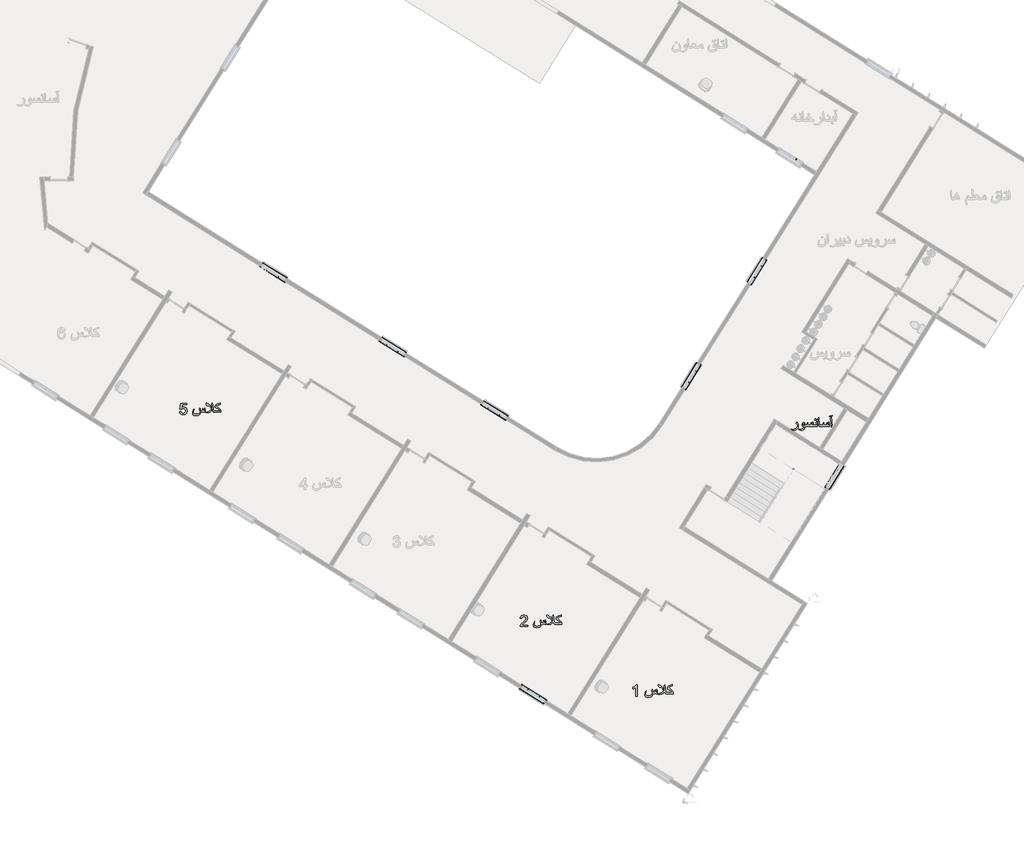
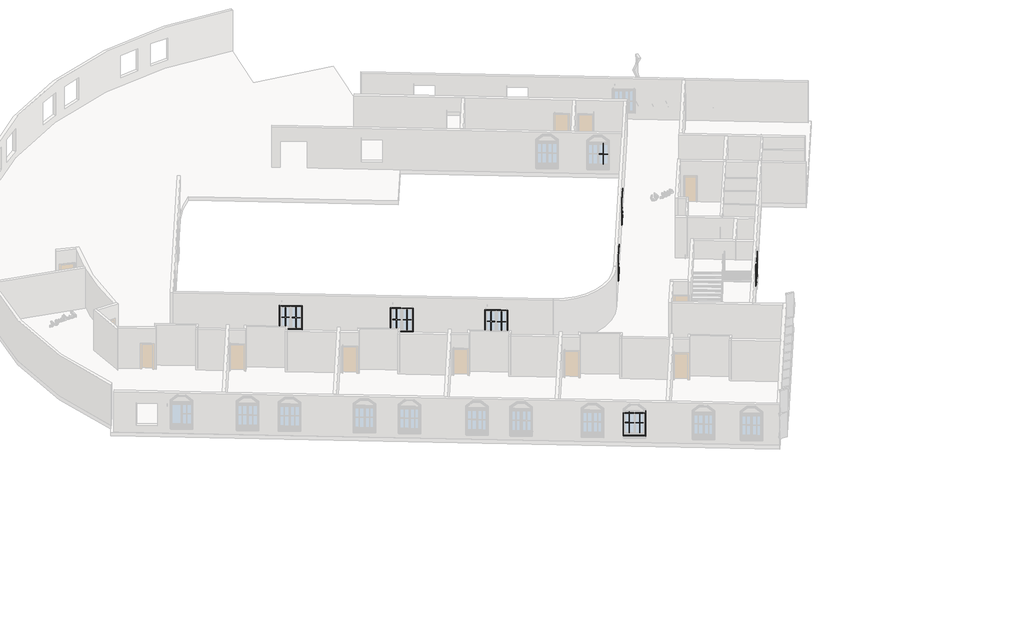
# One storey, part 8 of 12: 33 proxies, 1 member.
"""IFC4 building model written with IfcOpenShell, lengths in millimetres."""

from ifc_helpers import new_model, si_unit, frame, origin, origin_with_axes, place, context, project, spatial, polyline, outline, extrude, transform, mapped, element, save
from components import m_muntin_pattern_2x2_m_muntin_pattern_2x2_d2d4b859, m_muntin_pattern_2x2_m_muntin_pattern_2x2_f3921bb5, m_trim_window_exterior_flat_with_sill_136e302d, m_trim_window_exterior_flat_with_sill_88aaac3a, m_trim_window_interior_flat_picture_frame_c6c50358, m_trim_window_interior_flat_picture_frame_896fcfd1

model = new_model("IFC4")

# Units and contexts
model_context = context("Model", 3, world=origin())
ifc_project = project(units=[si_unit("LENGTHUNIT", "METRE", prefix="MILLI")], contexts=[model_context])

# Site, building, storey
site = spatial("IfcSite", under=ifc_project)
building = spatial("IfcBuilding", under=site)
storey = spatial("IfcBuildingStorey", under=building, Name="\u200fهمکف", Elevation=0.0)

# Proxies
placement = place(None, origin())
element("IfcBuildingElementProxy", 1, Name="600mm Arial", ObjectType="600mm Arial", at=placement, inside=storey, context=model_context, shape_type="SweptSolid", body=[
    extrude(outline(polyline([(47909.0542313, -48294.1945973), (47906.6078161, -48316.7641577), (47899.2685703, -48339.7383883), (47887.0364939, -48363.1172891), (47869.9115871, -48386.9008601), (47831.5782832, -48426.1906572), (47784.8572698, -48459.5943424), (47740.8585832, -48481.5568975), (47705.3947588, -48488.8777492), (47675.5227408, -48486.7440336), (47643.296278, -48480.3428869), (47582.5221724, -48460.1829536), (47522.9252892, -48437.0799643), (47529.8414707, -48421.4817677), (47587.4517912, -48434.9462487), (47641.6775973, -48441.7888538), (47668.7537121, -48439.7655028), (47696.4184381, -48433.6954499), (47724.6717754, -48423.578695), (47753.5137238, -48409.4152382), (47802.3500586, -48375.9379767), (47843.4976598, -48334.6616168), (47859.8178248, -48312.6346823), (47871.4750855, -48291.729788), (47878.469442, -48271.9469337), (47880.8008941, -48253.2861195), (47875.7609108, -48221.3171741), (47860.6409608, -48187.8031243), (47841.0328504, -48159.7705163), (47814.8764406, -48131.0021443), (47838.4208883, -48055.6599117), (47868.9550939, -48086.5619993), (47890.2186732, -48117.4640869), (47904.3453418, -48154.3994392), (47909.0542313, -48195.4550698), (47909.0542313, -48294.1945973)])), origin_with_axes(), (0.0, 0.0, 1.0), 150.0),
    extrude(outline(polyline([(48916.7565925, -48291.1043886), (48709.5654529, -48291.1043886), (48681.3121156, -48291.1043886), (48678.5162125, -48291.1043886), (48654.5854887, -48289.2097963), (48634.2967966, -48283.5260195), (48616.6200668, -48274.3841519), (48600.5252295, -48262.1152874), (48582.9036819, -48275.4326156), (48567.7101555, -48283.3052903), (48543.466732, -48289.154614), (48511.6449394, -48291.1043886), (48485.5988942, -48291.1043886), (48464.8135615, -48288.9338848), (48443.9546523, -48282.4223735), (48410.4038144, -48263.8811209), (48391.2187683, -48277.0329023), (48373.6891913, -48285.2918531), (48351.7450302, -48289.6512547), (48319.3162324, -48291.1043886), (48264.7089898, -48291.1043886), (48263.8304304, -48301.3499021), (48254.532213, -48337.3839436), (48239.035184, -48373.3076204), (48217.3393433, -48409.1209326), (48188.6813359, -48444.0145399), (48157.8896129, -48468.938545), (48124.9641743, -48483.8929481), (48089.9050202, -48488.8777492), (48062.7185407, -48486.8911864), (48034.7227209, -48480.9314981), (47980.717644, -48460.9187175), (47927.8897895, -48437.0799643), (47934.805971, -48422.5118373), (47982.3363248, -48435.1669779), (48027.0707754, -48441.7888538), (48051.3969723, -48440.1517789), (48075.0793758, -48435.2405543), (48098.1179857, -48427.0551799), (48120.5128022, -48415.5956557), (48154.9465569, -48390.3221627), (48189.3803117, -48355.7044669), (48238.676499, -48291.1043886), (48190.7046869, -48286.4322872), (48171.9059169, -48280.5921606), (48156.5652377, -48272.4159832), (48143.0455744, -48260.027557), (48133.388672, -48244.1994342), (48127.5945306, -48224.9316147), (48125.6631501, -48202.2240985), (48130.5927688, -48158.9611759), (48145.3816251, -48118.9356148), (48157.5677161, -48099.4930514), (48171.3173057, -48085.6055061), (48186.6303938, -48077.2729789), (48203.5069803, -48074.4954698), (48220.0616701, -48077.2637818), (48234.1147623, -48085.5687179), (48245.6662569, -48099.4102779), (48254.716154, -48118.788462), (48263.8764157, -48160.2119747), (48266.9298363, -48215.762156), (48320.4934548, -48215.762156), (48349.9240144, -48214.1802634), (48369.6424893, -48209.4345856), (48380.3938406, -48202.8311038), (48388.0733773, -48193.6156599), (48392.6810993, -48181.7882537), (48394.2170066, -48167.3488854), (48393.186937, -48140.9349581), (48389.3609643, -48111.2836693), (48403.4876329, -48083.9132489), (48422.0288854, -48144.9816601), (48435.5669428, -48174.2282787), (48450.2822227, -48195.1607642), (48470.6628852, -48210.611808), (48494.7223677, -48215.762156), (48521.7984825, -48215.762156), (48548.1388334, -48213.1501938), (48566.5329331, -48205.3143073), (48578.673039, -48189.8632635), (48582.7197409, -48167.3488854), (48581.3953657, -48139.978465), (48577.7165458, -48111.2836693), (48591.8432144, -48083.9132489), (48600.5252295, -48127.1761715), (48612.9596409, -48170.5494588), (48627.8956499, -48198.250973), (48644.3767633, -48211.3843602), (48665.8610718, -48215.762156), (48675.9594326, -48213.8307755), (48683.8872896, -48208.0366341), (48689.0192434, -48199.2258603), (48690.7298947, -48188.2445827), (48686.4256754, -48161.3524089), (48673.5130173, -48133.0622834), (48653.0587784, -48102.748807), (48676.6032261, -48055.6599117), (48691.2081413, -48081.4116513), (48700.2948266, -48103.3374182), (48707.2477963, -48138.690878), (48709.5654529, -48184.1243044), (48709.5654529, -48215.762156), (48888.5032553, -48215.762156), (48885.8177167, -48173.8603967), (48877.761101, -48143.2158265), (48864.9955958, -48122.1361882), (48841.4143599, -48093.331028), (48874.3765867, -48017.9887954), (48895.5665896, -48052.4593383), (48907.0445079, -48078.4685954), (48914.3285714, -48122.0626118), (48916.7565925, -48187.2145131), (48916.7565925, -48291.1043886)]), holes=[polyline([(48238.676499, -48215.762156), (48228.9644144, -48183.2781758), (48217.4864961, -48162.6399959), (48205.4199667, -48153.0382758), (48190.9989925, -48149.8377024), (48180.5511438, -48151.6771124), (48171.5748231, -48157.1953423), (48165.3944056, -48165.5094754), (48163.3342664, -48175.7365949), (48167.7488504, -48193.0638369), (48180.9926022, -48205.6086129), (48204.2427443, -48213.2237702), (48238.676499, -48215.762156)])]), origin_with_axes(), (0.0, 0.0, 1.0), 150.0),
    extrude(outline(polyline([(48879.0854762, -47911.5973223), (48848.4776942, -47970.8999), (48784.9076855, -47936.4661452), (48813.8967867, -47876.7221092), (48879.0854762, -47911.5973223)])), origin_with_axes(), (0.0, 0.0, 1.0), 150.0),
    extrude(outline(polyline([(49689.0144768, -48187.9502771), (49685.7403271, -48219.3673995), (49675.9178778, -48249.7544523), (49646.634471, -48300.5221677), (49639.2768311, -48296.5490421), (49641.116241, -48269.6936565), (49641.9255814, -48249.3129939), (49633.9057539, -48133.0622834), (49614.7023138, -47977.2274703), (49599.5455756, -47876.7221092), (49622.3542593, -47839.2717221), (49646.634471, -47801.3798766), (49664.3663831, -47925.9447202), (49681.2153785, -48068.4622051), (49689.0144768, -48187.9502771)])), origin_with_axes(), (0.0, 0.0, 1.0), 150.0),
    extrude(outline(polyline([(49707.850035, -47721.9173656), (49693.4106667, -47740.6609533), (49676.874371, -47753.6287936), (49657.0271373, -47761.1887686), (49632.6549552, -47763.7087603), (49619.7055089, -47762.6051143), (49606.4617571, -47759.8827875), (49578.0612671, -47754.2909812), (49563.9345985, -47757.4547664), (49553.0452914, -47763.7087603), (49547.7477907, -47759.1470235), (49564.3760568, -47735.3818467), (49574.1617179, -47728.3736947), (49584.0945318, -47726.037644), (49594.836686, -47727.4355956), (49616.4681474, -47731.6294503), (49632.6549552, -47734.3517771), (49647.2230822, -47735.4554231), (49676.6536418, -47729.8636167), (49702.5525342, -47716.6198649), (49707.850035, -47721.9173656)])), origin_with_axes(), (0.0, 0.0, 1.0), 150.0),
    extrude(outline(polyline([(49547.7477907, -48291.1043886), (49516.6985503, -48291.1043886), (49492.7678265, -48289.2097963), (49472.4791345, -48283.5260195), (49454.8024046, -48274.3841519), (49438.7075673, -48262.1152874), (49421.0860197, -48275.4326156), (49405.8924933, -48283.3052903), (49381.6490698, -48289.154614), (49349.8272773, -48291.1043886), (49323.781232, -48291.1043886), (49302.9958993, -48288.9338848), (49282.1369901, -48282.4223735), (49248.5861522, -48263.8811209), (49229.4011061, -48277.0329023), (49211.8715291, -48285.2918531), (49189.9273681, -48289.6512547), (49157.4985702, -48291.1043886), (49105.1121741, -48291.1043886), (49076.8588368, -48291.1043886), (49049.4884164, -48291.1043886), (49025.2082047, -48285.5493704), (49006.2254938, -48268.8843161), (48993.6807177, -48244.8616218), (48984.5940324, -48211.347572), (48973.263267, -48117.1697813), (48968.3336483, -48023.7277545), (48961.5646196, -47951.0342722), (48950.3074305, -47910.5672528), (48939.9331582, -47892.4674586), (48926.1743716, -47876.7221092), (48977.9721565, -47801.3798766), (48988.383217, -47853.3983907), (48995.1890339, -47914.6875311), (49001.5166042, -48109.0763774), (49010.5297131, -48166.7602742), (49022.8537599, -48199.1338898), (49034.8099248, -48211.6050894), (49047.7225828, -48215.762156), (49076.8588368, -48215.762156), (49105.1121741, -48215.762156), (49158.6757926, -48215.762156), (49188.1063522, -48214.1802634), (49207.8248271, -48209.4345856), (49218.5761784, -48202.8311038), (49226.2557151, -48193.6156599), (49230.8634371, -48181.7882537), (49232.3993444, -48167.3488854), (49231.3692748, -48140.9349581), (49227.5433021, -48111.2836693), (49241.6699707, -48083.9132489), (49260.2112232, -48144.9816601), (49273.7492807, -48174.2282787), (49288.4645605, -48195.1607642), (49308.845223, -48210.611808), (49332.9047055, -48215.762156), (49359.9808203, -48215.762156), (49386.3211712, -48213.1501938), (49404.7152709, -48205.3143073), (49416.8553768, -48189.8632635), (49420.9020787, -48167.3488854), (49419.5777035, -48139.978465), (49415.8988836, -48111.2836693), (49430.0255522, -48083.9132489), (49438.7075673, -48127.1761715), (49451.1419787, -48170.5494588), (49466.0779877, -48198.250973), (49482.5591011, -48211.3843602), (49504.0434096, -48215.762156), (49514.1417704, -48213.8307755), (49522.0696274, -48208.0366341), (49527.2015812, -48199.2258603), (49528.9122325, -48188.2445827), (49524.6080132, -48161.3524089), (49511.6953551, -48133.0622834), (49491.2411162, -48102.748807), (49514.7855639, -48055.6599117), (49529.3904791, -48081.4116513), (49538.4771644, -48103.3374182), (49545.4301341, -48138.690878), (49547.7477907, -48184.1243044), (49547.7477907, -48291.1043886)])), origin_with_axes(), (0.0, 0.0, 1.0), 150.0),
])
element("IfcBuildingElementProxy", 2, Name="600mm Arial", ObjectType="600mm Arial", at=placement, inside=storey, context=model_context, shape_type="SweptSolid", body=[
    extrude(outline(polyline([(39443.2126361, -62470.2387571), (39367.8704035, -62470.2387571), (39367.8704035, -62000.5270257), (39336.4164929, -62025.9660657), (39296.5012965, -62051.3683174), (39254.5995372, -62073.5699958), (39217.1859383, -62089.4073157), (39217.1859383, -62018.1853615), (39276.3597572, -61985.9956869), (39327.6241132, -61947.6991712), (39368.0359504, -61906.9746343), (39394.6522128, -61867.5008962), (39443.2126361, -61867.5008962), (39443.2126361, -62470.2387571)])), origin_with_axes(), (0.0, 0.0, 1.0), 150.0),
    extrude(outline(polyline([(40507.4216718, -62347.8076291), (40475.7838202, -62347.8076291), (40453.1222893, -62346.115372), (40433.4038144, -62341.0386004), (40415.0097146, -62332.2830089), (40396.3213092, -62319.5542919), (40380.428807, -62332.5773145), (40366.3021384, -62340.4499892), (40343.3095137, -62345.9682192), (40311.7084503, -62347.8076291), (40262.5594158, -62347.8076291), (40258.0344673, -62384.6694051), (40244.4596216, -62420.5011114), (40231.2158698, -62442.1969521), (40214.8819092, -62461.5199538), (40195.4577399, -62478.4701168), (40172.9433618, -62493.0474408), (40140.8088695, -62507.7903118), (40104.8851927, -62518.3209339), (40065.1723313, -62524.6393072), (40021.6702853, -62526.7454316), (39982.9599024, -62524.9428098), (39949.0871677, -62519.5349445), (39920.0520812, -62510.5218356), (39895.854643, -62497.9034832), (39874.9957339, -62479.9048566), (39860.0965131, -62457.6939811), (39851.1569806, -62431.2708568), (39848.1771364, -62400.6354836), (39850.2556697, -62365.0796888), (39856.4912695, -62329.0456474), (39879.2263768, -62256.1314359), (39909.3927004, -62187.7053848), (39923.519369, -62195.0630247), (39899.6990098, -62247.283874), (39885.6275235, -62287.1070999), (39878.7297361, -62319.3519568), (39876.4304737, -62348.8376987), (39878.7619258, -62372.4281317), (39885.7562822, -62393.0203263), (39897.413543, -62410.6142828), (39913.733708, -62425.2100009), (39934.3672894, -62436.6695251), (39958.9647993, -62444.8548995), (39987.5262377, -62449.7661241), (40020.0516046, -62451.403199), (40059.4333722, -62449.6373654), (40096.644636, -62444.3398647), (40131.685396, -62435.5106968), (40164.5556523, -62423.1498618), (40199.1917421, -62403.9004364), (40223.9318063, -62381.1745261), (40238.7758448, -62354.972131), (40243.7238576, -62325.293251), (40240.0818259, -62284.1272558), (40229.1557306, -62245.0949761), (40215.2865794, -62215.7379929), (40196.6349623, -62187.7053848), (40229.597189, -62112.3631522), (40244.4596216, -62144.2585212), (40253.7302479, -62172.254341), (40260.3521238, -62215.6276283), (40262.5594158, -62272.4653965), (40312.1499087, -62272.4653965), (40344.8546181, -62269.411976), (40366.4492912, -62260.2517143), (40377.0442927, -62246.7872333), (40380.5759598, -62227.5837931), (40379.3251611, -62202.862123), (40375.5727647, -62175.4917026), (40389.6994333, -62150.0342685), (40396.3213092, -62191.5313576), (40406.9898871, -62227.5837931), (40420.7486737, -62251.8640048), (40441.2029126, -62267.3150486), (40468.7204859, -62272.4653965), (40477.1817718, -62270.9202921), (40483.4357657, -62266.284979), (40488.5861136, -62250.6867824), (40485.4223285, -62228.4667099), (40475.930973, -62204.7751094), (40450.9149973, -62168.8698267), (40474.459445, -62121.7809313), (40498.2981983, -62166.6625347), (40505.1408034, -62199.8087025), (40507.4216718, -62245.0949761), (40507.4216718, -62347.8076291)])), origin_with_axes(), (0.0, 0.0, 1.0), 150.0),
    extrude(outline(polyline([(41336.1862305, -62347.8076291), (41006.5639628, -62347.8076291), (40978.3106256, -62347.6188527), (40962.2893647, -62345.563549), (40946.5991976, -62338.8313085), (40932.7116523, -62327.6109076), (40920.6267288, -62311.9023464), (40908.9096872, -62287.4106026), (40900.5403718, -62257.3454465), (40895.5187826, -62221.7068782), (40893.8449195, -62180.4948977), (40892.2998151, -62163.4987496), (40890.7547108, -62150.0342685), (40854.5919106, -62238.3259474), (40838.0832061, -62270.1109518), (40822.6229652, -62293.6553995), (40803.1344166, -62314.4867174), (40779.985442, -62331.5104568), (40753.1760416, -62344.7266174), (40722.7062154, -62354.1351995), (40648.5044169, -62363.5161903), (40535.675009, -62366.6431873), (40535.675009, -62357.2254082), (40628.5284246, -62327.868425), (40694.3057253, -62302.7788729), (40733.9082221, -62283.7593738), (40768.3971592, -62263.341923), (40797.7725365, -62241.5265207), (40822.0343541, -62218.3131668), (40845.0821611, -62188.2020255), (40861.5448803, -62155.4053457), (40871.4225119, -62119.9231272), (40874.7150558, -62081.7553702), (40872.5261579, -62044.8935943), (40865.9594643, -62010.533416), (40841.752829, -61942.8431289), (40863.9729015, -61904.8777069), (40888.8417244, -61867.5008962), (40909.0016577, -61989.1962602), (40921.8039511, -62085.8756486), (40936.0777726, -62187.9996904), (40945.8266454, -62230.2325435), (40959.4750675, -62258.3387279), (40969.8125515, -62268.9337294), (40980.223612, -62272.4653965), (41006.5639628, -62272.4653965), (41293.8062247, -62272.4653965), (41262.7753784, -62233.5250873), (41227.6610419, -62199.9926435), (41183.975055, -62167.9317276), (41127.2292573, -62133.4060024), (41113.6911998, -62145.6196846), (41062.0405677, -62110.1558603), (41041.623117, -62092.0560661), (41034.8173001, -62078.3708559), (41036.9970009, -62045.2982645), (41043.5361034, -62015.9780695), (41054.4346075, -61990.4102708), (41069.6925132, -61968.5948685), (41088.8131799, -61950.798577), (41113.8015644, -61933.9035964), (41144.6576668, -61917.9099266), (41181.3814869, -61902.8175678), (41298.5151142, -61858.0831172), (41298.5151142, -61933.4253498), (41213.4607969, -61960.942923), (41131.2023828, -61990.3734826), (41101.2935766, -62005.3094916), (41091.3239745, -62016.2723751), (41097.7986976, -62027.7502933), (41117.222867, -62044.2314067), (41149.8907882, -62067.7758544), (41207.4275322, -62114.0186212), (41257.0180252, -62162.3951036), (41301.4581702, -62216.4737569), (41336.1862305, -62272.4653965), (41336.1862305, -62347.8076291)])), origin_with_axes(), (0.0, 0.0, 1.0), 150.0),
    extrude(outline(polyline([(40827.920466, -62131.493016), (40827.1111256, -62145.2518026), (40822.9172708, -62159.4520476), (40795.657215, -62108.4636031), (40757.7285813, -62055.8564778), (40735.0854445, -62030.0403588), (40714.9806935, -62011.6002737), (40697.4143282, -62000.5362227), (40682.3863487, -61996.8482057), (40676.5002368, -61999.5153502), (40670.6141248, -62007.5167836), (40664.2497663, -62015.518217), (40656.9289146, -62018.1853615), (40643.2804926, -62014.5801179), (40623.5252295, -62003.7643873), (40597.7734898, -61984.2298533), (40577.6135565, -61961.8258398), (40560.2863145, -61928.6060956), (40554.5105672, -61893.3997887), (40558.5204809, -61873.9756194), (40563.5328731, -61869.119577), (40570.5502222, -61867.5008962), (40586.7278329, -61869.8093558), (40606.8601751, -61876.7347343), (40658.9890538, -61904.4362486), (40720.793229, -61948.9131818), (40771.7080971, -62000.2327201), (40796.3010085, -62033.5996171), (40813.8673738, -62066.598632), (40824.4071929, -62099.229765), (40827.920466, -62131.493016)])), origin_with_axes(), (0.0, 0.0, 1.0), 150.0),
])
element("IfcBuildingElementProxy", 3, Name="600mm Arial", ObjectType="600mm Arial", at=placement, inside=storey, context=model_context, shape_type="SweptSolid", body=[
    extrude(outline(polyline([(33688.3265746, -58734.1109044), (33688.3265746, -58809.453137), (33292.7798534, -58809.453137), (33294.4353224, -58782.9288451), (33300.8732573, -58757.5081992), (33319.451298, -58716.9124211), (33346.6377775, -58677.5306535), (33385.9643628, -58636.3094759), (33440.962721, -58590.1954678), (33522.264642, -58517.9802322), (33571.0457945, -58464.6741311), (33585.2736307, -58442.895517), (33595.4363708, -58421.4112085), (33601.5340149, -58400.2212055), (33603.5665629, -58379.3255082), (33601.648978, -58359.6668141), (33595.8962233, -58341.5992096), (33586.3082988, -58325.1226947), (33572.8852045, -58310.2372695), (33556.3719015, -58297.9086241), (33537.5133507, -58289.1024489), (33516.3095522, -58283.8187437), (33492.760506, -58282.0575087), (33467.9514639, -58283.777357), (33445.7635811, -58288.936902), (33426.1968575, -58297.5361436), (33409.2512931, -58309.5750819), (33395.5430902, -58324.6490467), (33385.6884513, -58342.3533677), (33379.6873762, -58362.688045), (33377.5398651, -58385.6530785), (33302.1976325, -58376.2352994), (33308.6769541, -58337.3409755), (33320.4629735, -58303.3578762), (33337.5556907, -58274.2860015), (33359.9551057, -58250.1253515), (33387.1461837, -58231.1334435), (33418.6138898, -58217.5677949), (33454.3582242, -58209.4284058), (33494.3791867, -58206.7152761), (33534.7588342, -58209.7319084), (33570.6963066, -58218.7818055), (33602.191604, -58233.8649673), (33629.2447262, -58254.9813938), (33650.9727565, -58280.5675866), (33666.4927782, -58309.0600471), (33675.8047912, -58340.4587754), (33678.9087955, -58374.7637715), (33675.5610694, -58410.7978129), (33665.5178909, -58446.2064549), (33647.6940082, -58482.2221023), (33621.0041695, -58520.0771596), (33578.4586167, -58565.2714627), (33513.0675921, -58623.3048474), (33426.394594, -58695.7776005), (33392.4022977, -58734.1109044), (33688.3265746, -58734.1109044)])), origin_with_axes(), (0.0, 0.0, 1.0), 150.0),
    extrude(outline(polyline([(34648.9400404, -58687.022009), (34617.3021888, -58687.022009), (34594.6406579, -58685.3297518), (34574.922183, -58680.2529803), (34556.5280832, -58671.4973888), (34537.8396779, -58658.7686717), (34521.9471757, -58671.7916944), (34507.8205071, -58679.6643691), (34484.8278824, -58685.182599), (34453.226819, -58687.022009), (34404.0777844, -58687.022009), (34399.5528359, -58723.8837849), (34385.9779903, -58759.7154912), (34372.7342384, -58781.4113319), (34356.4002778, -58800.7343337), (34336.9761085, -58817.6844966), (34314.4617304, -58832.2618207), (34282.3272381, -58847.0046916), (34246.4035613, -58857.5353137), (34206.6906999, -58863.853687), (34163.188654, -58865.9598114), (34124.478271, -58864.1571896), (34090.6055363, -58858.7493243), (34061.5704499, -58849.7362154), (34037.3730116, -58837.117863), (34016.5141025, -58819.1192364), (34001.6148817, -58796.9083609), (33992.6753492, -58770.4852366), (33989.695505, -58739.8498635), (33991.7740383, -58704.2940686), (33998.0096381, -58668.2600272), (34020.7447454, -58595.3458158), (34050.911069, -58526.9197647), (34065.0377377, -58534.2774046), (34041.2173785, -58586.4982538), (34027.1458922, -58626.3214798), (34020.2481047, -58658.5663366), (34017.9488423, -58688.0520786), (34020.2802944, -58711.6425115), (34027.2746509, -58732.2347062), (34038.9319116, -58749.8286626), (34055.2520766, -58764.4243808), (34075.885658, -58775.8839049), (34100.4831679, -58784.0692793), (34129.0446063, -58788.9805039), (34161.5699732, -58790.6175788), (34200.9517408, -58788.8517452), (34238.1630046, -58783.5542445), (34273.2037646, -58774.7250766), (34306.0740209, -58762.3642416), (34340.7101107, -58743.1148162), (34365.4501749, -58720.3889059), (34380.2942134, -58694.1865108), (34385.2422263, -58664.5076309), (34381.6001945, -58623.3416356), (34370.6740993, -58584.3093559), (34356.804948, -58554.9523727), (34338.1533309, -58526.9197647), (34371.1155576, -58451.5775321), (34385.9779903, -58483.472901), (34395.2486165, -58511.4687209), (34401.8704924, -58554.8420081), (34404.0777844, -58611.6797764), (34453.6682774, -58611.6797764), (34486.3729867, -58608.6263558), (34507.9676599, -58599.4660941), (34518.5626613, -58586.0016131), (34522.0943285, -58566.7981729), (34520.8435297, -58542.0765029), (34517.0911333, -58514.7060824), (34531.2178019, -58489.2486484), (34537.8396779, -58530.7457374), (34548.5082557, -58566.7981729), (34562.2670423, -58591.0783846), (34582.7212813, -58606.5294284), (34610.2388545, -58611.6797764), (34618.7001404, -58610.134672), (34624.9541343, -58605.4993588), (34630.1044823, -58589.9011622), (34626.9406971, -58567.6810897), (34617.4493416, -58543.9894892), (34592.4333659, -58508.0842065), (34615.9778136, -58460.9953111), (34639.8165669, -58505.8769145), (34646.659172, -58539.0230823), (34648.9400404, -58584.3093559), (34648.9400404, -58687.022009)])), origin_with_axes(), (0.0, 0.0, 1.0), 150.0),
    extrude(outline(polyline([(35477.7045991, -58687.022009), (35148.0823315, -58687.022009), (35119.8289942, -58686.8332325), (35103.8077333, -58684.7779288), (35088.1175662, -58678.0456883), (35074.2300209, -58666.8252874), (35062.1450974, -58651.1167262), (35050.4280558, -58626.6249824), (35042.0587404, -58596.5598264), (35037.0371512, -58560.9212581), (35035.3632881, -58519.7092776), (35033.8181838, -58502.7131294), (35032.2730794, -58489.2486484), (34996.1102793, -58577.5403272), (34979.6015747, -58609.3253316), (34964.1413339, -58632.8697793), (34944.6527852, -58653.7010973), (34921.5038106, -58670.7248366), (34894.6944102, -58683.9409973), (34864.224584, -58693.3495793), (34790.0227856, -58702.7305702), (34677.1933776, -58705.8575671), (34677.1933776, -58696.439788), (34770.0467932, -58667.0828048), (34835.824094, -58641.9932528), (34875.4265907, -58622.9737536), (34909.9155278, -58602.5563029), (34939.2909051, -58580.7409006), (34963.5527227, -58557.5275467), (34986.6005297, -58527.4164054), (35003.063249, -58494.6197255), (35012.9408805, -58459.1375071), (35016.2334244, -58420.9697501), (35014.0445265, -58384.1079741), (35007.4778329, -58349.7477958), (34983.2711976, -58282.0575087), (35005.4912701, -58244.0920868), (35030.360093, -58206.7152761), (35050.5200263, -58328.4106401), (35063.3223198, -58425.0900284), (35077.5961412, -58527.2140703), (35087.3450141, -58569.4469233), (35100.9934361, -58597.5531077), (35111.3309201, -58608.1481092), (35121.7419806, -58611.6797764), (35148.0823315, -58611.6797764), (35435.3245933, -58611.6797764), (35404.293747, -58572.7394672), (35369.1794106, -58539.2070233), (35325.4934236, -58507.1461074), (35268.7476259, -58472.6203822), (35255.2095685, -58484.8340644), (35203.5589363, -58449.3702401), (35183.1414856, -58431.2704459), (35176.3356687, -58417.5852357), (35178.5153695, -58384.5126443), (35185.054472, -58355.1924493), (35195.9529761, -58329.6246507), (35211.2108818, -58307.8092483), (35230.3315485, -58290.0129568), (35255.3199331, -58273.1179762), (35286.1760354, -58257.1243065), (35322.8998556, -58242.0319476), (35440.0334828, -58197.297497), (35440.0334828, -58272.6397296), (35354.9791655, -58300.1573028), (35272.7207514, -58329.5878625), (35242.8119452, -58344.5238715), (35232.8423431, -58355.4867549), (35239.3170663, -58366.9646732), (35258.7412356, -58383.4457865), (35291.4091568, -58406.9902342), (35348.9459008, -58453.233001), (35398.5363938, -58501.6094834), (35442.9765388, -58555.6881367), (35477.7045991, -58611.6797764), (35477.7045991, -58687.022009)])), origin_with_axes(), (0.0, 0.0, 1.0), 150.0),
    extrude(outline(polyline([(34969.4388346, -58470.7073958), (34968.6294942, -58484.4661824), (34964.4356395, -58498.6664274), (34937.1755836, -58447.6779829), (34899.2469499, -58395.0708576), (34876.6038131, -58369.2547386), (34856.4990621, -58350.8146536), (34838.9326968, -58339.7506026), (34823.9047173, -58336.0625856), (34818.0186054, -58338.72973), (34812.1324935, -58346.7311634), (34805.7681349, -58354.7325968), (34798.4472832, -58357.3997413), (34784.7988612, -58353.7944977), (34765.0435981, -58342.9787671), (34739.2918584, -58323.4442331), (34719.1319251, -58301.0402196), (34701.8046831, -58267.8204755), (34696.0289358, -58232.6141685), (34700.0388495, -58213.1899992), (34705.0512417, -58208.3339568), (34712.0685908, -58206.7152761), (34728.2462015, -58209.0237356), (34748.3785437, -58215.9491141), (34800.5074224, -58243.6506284), (34862.3115976, -58288.1275616), (34913.2264657, -58339.4470999), (34937.8193771, -58372.8139969), (34955.3857424, -58405.8130119), (34965.9255615, -58438.4441448), (34969.4388346, -58470.7073958)])), origin_with_axes(), (0.0, 0.0, 1.0), 150.0),
])
element("IfcBuildingElementProxy", 4, Name="600mm Arial", ObjectType="600mm Arial", at=placement, inside=storey, context=model_context, shape_type="SweptSolid", body=[
    extrude(outline(polyline([(15384.3890391, -47497.2975229), (15459.7312717, -47487.8797438), (15465.3598663, -47512.1001747), (15473.5636348, -47533.1108351), (15484.3425772, -47550.9117251), (15497.6966936, -47565.5028448), (15513.5983929, -47576.8657999), (15532.0200838, -47584.9821964), (15552.9617664, -47589.8520343), (15576.4234406, -47591.4753136), (15605.1182362, -47589.2174379), (15630.4285175, -47582.4438107), (15652.3542844, -47571.1544319), (15670.895537, -47555.3493017), (15685.6384079, -47535.8101692), (15696.16903, -47513.3187838), (15702.4874033, -47487.8751453), (15704.5935277, -47459.4792538), (15702.6207605, -47432.6422622), (15696.7024589, -47408.7851148), (15686.8386229, -47387.9078116), (15673.0292525, -47370.0103525), (15655.2283625, -47355.6537577), (15633.3899676, -47345.3990471), (15607.5140677, -47339.2462207), (15577.600663, -47337.1952786), (15541.0515868, -47340.4694283), (15511.4554803, -47350.2918776), (15487.8190621, -47365.3382512), (15469.1490508, -47384.284174), (15393.8068182, -47374.8663949), (15459.7312717, -47064.0796854), (15751.6824231, -47064.0796854), (15751.6824231, -47139.421918), (15520.6525301, -47139.421918), (15488.4260674, -47305.4102742), (15515.0147386, -47286.3539868), (15542.2472033, -47272.742353), (15570.1234614, -47264.5753727), (15598.6435131, -47261.853046), (15635.3351436, -47265.2283633), (15669.0377329, -47275.3543152), (15699.751281, -47292.2309017), (15727.4757878, -47315.8581229), (15750.4270258, -47344.7920418), (15766.8207672, -47377.5887216), (15776.6570121, -47414.2481625), (15779.9357603, -47454.7703642), (15776.9835073, -47493.8026439), (15768.1267483, -47530.1125968), (15753.3654832, -47563.700223), (15732.6997122, -47594.5655224), (15701.3929544, -47626.1757828), (15664.8622723, -47648.7545403), (15623.1076658, -47662.3017948), (15576.129135, -47666.8175463), (15537.2486067, -47663.915877), (15502.1296717, -47655.2108693), (15470.7723301, -47640.7025231), (15443.176582, -47620.3908385), (15420.2161469, -47595.2874908), (15402.7647448, -47566.4041557), (15390.8223755, -47533.740833), (15384.3890391, -47497.2975229)])), origin_with_axes(), (0.0, 0.0, 1.0), 150.0),
    extrude(outline(polyline([(16731.1314471, -47534.9686392), (16699.4935955, -47534.9686392), (16676.8320646, -47533.276382), (16657.1135896, -47528.1996105), (16638.7194899, -47519.444019), (16620.0310845, -47506.7153019), (16604.1385823, -47519.7383246), (16590.0119137, -47527.6109993), (16567.019289, -47533.1292292), (16535.4182256, -47534.9686392), (16486.2691911, -47534.9686392), (16481.7442425, -47571.8304151), (16468.1693969, -47607.6621214), (16454.9256451, -47629.3579621), (16438.5916845, -47648.6809639), (16419.1675152, -47665.6311268), (16396.6531371, -47680.2084509), (16364.5186448, -47694.9513218), (16328.594968, -47705.4819439), (16288.8821066, -47711.8003172), (16245.3800606, -47713.9064416), (16206.6696777, -47712.1038199), (16172.796943, -47706.6959545), (16143.7618565, -47697.6828456), (16119.5644183, -47685.0644932), (16098.7055092, -47667.0658666), (16083.8062884, -47644.8549911), (16074.8667559, -47618.4318668), (16071.8869117, -47587.7964937), (16073.965445, -47552.2406989), (16080.2010448, -47516.2066574), (16102.9361521, -47443.292446), (16133.1024757, -47374.8663949), (16147.2291443, -47382.2240348), (16123.4087851, -47434.444884), (16109.3372988, -47474.26811), (16102.4395114, -47506.5129669), (16100.1402489, -47535.9987088), (16102.4717011, -47559.5891417), (16109.4660575, -47580.1813364), (16121.1233182, -47597.7752928), (16137.4434833, -47612.371011), (16158.0770647, -47623.8305351), (16182.6745746, -47632.0159095), (16211.236013, -47636.9271341), (16243.7613799, -47638.564209), (16283.1431474, -47636.7983754), (16320.3544113, -47631.5008747), (16355.3951713, -47622.6717068), (16388.2654276, -47610.3108718), (16422.9015174, -47591.0614464), (16447.6415816, -47568.3355361), (16462.4856201, -47542.133141), (16467.4336329, -47512.4542611), (16463.7916012, -47471.2882658), (16452.8655059, -47432.2559861), (16438.9963547, -47402.8990029), (16420.3447375, -47374.8663949), (16453.3069643, -47299.5241623), (16468.1693969, -47331.4195312), (16477.4400232, -47359.4153511), (16484.0618991, -47402.7886383), (16486.2691911, -47459.6264066), (16535.859684, -47459.6264066), (16568.5643934, -47456.572986), (16590.1590665, -47447.4127243), (16600.754068, -47433.9482433), (16604.2857351, -47414.7448032), (16603.0349364, -47390.0231331), (16599.28254, -47362.6527126), (16613.4092086, -47337.1952786), (16620.0310845, -47378.6923676), (16630.6996624, -47414.7448032), (16644.458449, -47439.0250148), (16664.9126879, -47454.4760586), (16692.4302612, -47459.6264066), (16700.8915471, -47458.0813022), (16707.145541, -47453.445989), (16712.2958889, -47437.8477925), (16709.1321038, -47415.6277199), (16699.6407483, -47391.9361195), (16674.6247726, -47356.0308367), (16698.1692203, -47308.9419413), (16722.0079736, -47353.8235448), (16728.8505787, -47386.9697125), (16731.1314471, -47432.2559861), (16731.1314471, -47534.9686392)])), origin_with_axes(), (0.0, 0.0, 1.0), 150.0),
    extrude(outline(polyline([(17559.8960058, -47534.9686392), (17230.2737381, -47534.9686392), (17202.0204009, -47534.7798627), (17185.99914, -47532.724559), (17170.3089729, -47525.9923185), (17156.4214276, -47514.7719176), (17144.3365041, -47499.0633565), (17132.6194625, -47474.5716126), (17124.2501471, -47444.5064566), (17119.2285579, -47408.8678883), (17117.5546948, -47367.6559078), (17116.0095904, -47350.6597596), (17114.464486, -47337.1952786), (17078.3016859, -47425.4869574), (17061.7929814, -47457.2719618), (17046.3327405, -47480.8164095), (17026.8441918, -47501.6477275), (17003.6952173, -47518.6714668), (16976.8858169, -47531.8876275), (16946.4159907, -47541.2962095), (16872.2141922, -47550.6772004), (16759.3847843, -47553.8041973), (16759.3847843, -47544.3864183), (16852.2381999, -47515.029435), (16918.0155006, -47489.939883), (16957.6179974, -47470.9203838), (16992.1069345, -47450.5029331), (17021.4823118, -47428.6875308), (17045.7441293, -47405.4741769), (17068.7919363, -47375.3630356), (17085.2546556, -47342.5663557), (17095.1322872, -47307.0841373), (17098.4248311, -47268.9163803), (17096.2359332, -47232.0546044), (17089.6692396, -47197.694426), (17065.4626043, -47130.0041389), (17087.6826768, -47092.038717), (17112.5514997, -47054.6619063), (17132.711433, -47176.3572703), (17145.5137264, -47273.0366586), (17159.7875479, -47375.1607005), (17169.5364207, -47417.3935535), (17183.1848427, -47445.499738), (17193.5223268, -47456.0947394), (17203.9333873, -47459.6264066), (17230.2737381, -47459.6264066), (17517.516, -47459.6264066), (17486.4851537, -47420.6860974), (17451.3708172, -47387.1536535), (17407.6848303, -47355.0927376), (17350.9390325, -47320.5670124), (17337.4009751, -47332.7806946), (17285.750343, -47297.3168703), (17265.3328923, -47279.2170761), (17258.5270754, -47265.5318659), (17260.7067762, -47232.4592745), (17267.2458786, -47203.1390795), (17278.1443828, -47177.5712809), (17293.4022885, -47155.7558786), (17312.5229552, -47137.959587), (17337.5113397, -47121.0646064), (17368.3674421, -47105.0709367), (17405.0912622, -47089.9785778), (17522.2248895, -47045.2441272), (17522.2248895, -47120.5863598), (17437.1705722, -47148.1039331), (17354.9121581, -47177.5344927), (17325.0033519, -47192.4705017), (17315.0337498, -47203.4333851), (17321.5084729, -47214.9113034), (17340.9326423, -47231.3924168), (17373.6005634, -47254.9368645), (17431.1373075, -47301.1796312), (17480.7278004, -47349.5561136), (17525.1679455, -47403.6347669), (17559.8960058, -47459.6264066), (17559.8960058, -47534.9686392)])), origin_with_axes(), (0.0, 0.0, 1.0), 150.0),
    extrude(outline(polyline([(17051.6302413, -47318.654026), (17050.8209009, -47332.4128126), (17046.6270461, -47346.6130576), (17019.3669903, -47295.6246131), (16981.4383566, -47243.0174878), (16958.7952198, -47217.2013688), (16938.6904688, -47198.7612838), (16921.1241035, -47187.6972328), (16906.096124, -47184.0092158), (16900.2100121, -47186.6763602), (16894.3239001, -47194.6777936), (16887.9595416, -47202.679227), (16880.6386899, -47205.3463715), (16866.9902679, -47201.7411279), (16847.2350048, -47190.9253973), (16821.4832651, -47171.3908633), (16801.3233318, -47148.9868498), (16783.9960898, -47115.7671057), (16778.2203425, -47080.5607987), (16782.2302562, -47061.1366294), (16787.2426484, -47056.2805871), (16794.2599974, -47054.6619063), (16810.4376082, -47056.9703658), (16830.5699504, -47063.8957444), (16882.6988291, -47091.5972586), (16944.5030043, -47136.0741918), (16995.4178724, -47187.3937301), (17020.0107838, -47220.7606271), (17037.5771491, -47253.7596421), (17048.1169682, -47286.390775), (17051.6302413, -47318.654026)])), origin_with_axes(), (0.0, 0.0, 1.0), 150.0),
])
m_muntin_pattern_2x2_m_muntin_pattern_2x2_shape = m_muntin_pattern_2x2_m_muntin_pattern_2x2_d2d4b859(model_context)
element("IfcBuildingElementProxy", 5, Name="M_Muntin Pattern_2x2 : M_Muntin Pattern_2x2", ObjectType="M_Muntin Pattern_2x2 : M_Muntin Pattern_2x2", at=placement, inside=storey, context=model_context, shape_type="MappedRepresentation", body=[
    mapped(m_muntin_pattern_2x2_m_muntin_pattern_2x2_shape, transform((33710.1960696, -62109.7726408, 669.85), x_axis=(0.8480480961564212, -0.5299192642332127, 0.0), y_axis=(0.5299192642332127, 0.8480480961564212, 0.0), z_axis=(0.0, 0.0, 1.0))),
])
element("IfcBuildingElementProxy", 6, Name="M_Muntin Pattern_2x2 : M_Muntin Pattern_2x2", ObjectType="M_Muntin Pattern_2x2 : M_Muntin Pattern_2x2", at=placement, inside=storey, context=model_context, shape_type="MappedRepresentation", body=[
    mapped(m_muntin_pattern_2x2_m_muntin_pattern_2x2_shape, transform((45987.2074956, -39863.2600625, 669.85), x_axis=(-0.5299192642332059, -0.8480480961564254, 0.0), y_axis=(0.8480480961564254, -0.5299192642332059, 0.0), z_axis=(0.0, 0.0, 1.0))),
])
element("IfcBuildingElementProxy", 7, Name="M_Muntin Pattern_2x2 : M_Muntin Pattern_2x2", ObjectType="M_Muntin Pattern_2x2 : M_Muntin Pattern_2x2", at=placement, inside=storey, context=model_context, shape_type="MappedRepresentation", body=[
    mapped(m_muntin_pattern_2x2_m_muntin_pattern_2x2_shape, transform((42537.766122, -45383.5201987, 669.85), x_axis=(-0.5299192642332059, -0.8480480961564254, 0.0), y_axis=(0.8480480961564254, -0.5299192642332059, 0.0), z_axis=(0.0, 0.0, 1.0))),
])
element("IfcBuildingElementProxy", 8, Name="M_Muntin Pattern_2x2 : M_Muntin Pattern_2x2", ObjectType="M_Muntin Pattern_2x2 : M_Muntin Pattern_2x2", at=placement, inside=storey, context=model_context, shape_type="MappedRepresentation", body=[
    mapped(m_muntin_pattern_2x2_m_muntin_pattern_2x2_shape, transform((32197.2718735, -47699.295532, 669.85), x_axis=(-0.8480480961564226, 0.5299192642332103, 0.0), y_axis=(-0.5299192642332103, -0.8480480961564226, 0.0), z_axis=(0.0, 0.0, 1.0))),
])
element("IfcBuildingElementProxy", 9, Name="M_Muntin Pattern_2x2 : M_Muntin Pattern_2x2", ObjectType="M_Muntin Pattern_2x2 : M_Muntin Pattern_2x2", at=placement, inside=storey, context=model_context, shape_type="MappedRepresentation", body=[
    mapped(m_muntin_pattern_2x2_m_muntin_pattern_2x2_shape, transform((26854.5688677, -44360.8041673, 669.85), x_axis=(-0.8480480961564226, 0.5299192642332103, 0.0), y_axis=(-0.5299192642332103, -0.8480480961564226, 0.0), z_axis=(0.0, 0.0, 1.0))),
])
element("IfcBuildingElementProxy", 10, Name="M_Muntin Pattern_2x2 : M_Muntin Pattern_2x2", ObjectType="M_Muntin Pattern_2x2 : M_Muntin Pattern_2x2", at=placement, inside=storey, context=model_context, shape_type="MappedRepresentation", body=[
    mapped(m_muntin_pattern_2x2_m_muntin_pattern_2x2_shape, transform((20579.0129561, -40439.401612, 669.85), x_axis=(-0.8480480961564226, 0.5299192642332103, 0.0), y_axis=(-0.5299192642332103, -0.8480480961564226, 0.0), z_axis=(0.0, 0.0, 1.0))),
])
element("IfcBuildingElementProxy", 11, Name="M_Muntin Pattern_2x2 : M_Muntin Pattern_2x2", ObjectType="M_Muntin Pattern_2x2 : M_Muntin Pattern_2x2", at=placement, inside=storey, context=model_context, shape_type="MappedRepresentation", body=[
    mapped(m_muntin_pattern_2x2_m_muntin_pattern_2x2_shape, transform((49571.9375757, -51146.1608436, 669.85), x_axis=(0.5299192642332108, 0.8480480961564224, 0.0), y_axis=(-0.8480480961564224, 0.5299192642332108, 0.0), z_axis=(0.0, 0.0, 1.0))),
])
m_muntin_pattern_2x2_m_muntin_pattern_2x2_2_shape = m_muntin_pattern_2x2_m_muntin_pattern_2x2_f3921bb5(model_context)
element("IfcBuildingElementProxy", 12, Name="M_Muntin Pattern_2x2 : M_Muntin Pattern_2x2", ObjectType="M_Muntin Pattern_2x2 : M_Muntin Pattern_2x2", at=placement, inside=storey, context=model_context, shape_type="MappedRepresentation", body=[
    mapped(m_muntin_pattern_2x2_m_muntin_pattern_2x2_2_shape, transform((34301.1371842, -62479.0336321, 669.85), x_axis=(-0.8480480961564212, 0.5299192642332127, 0.0), y_axis=(-0.5299192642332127, -0.8480480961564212, 0.0), z_axis=(0.0, 0.0, 1.0))),
])
element("IfcBuildingElementProxy", 13, Name="M_Muntin Pattern_2x2 : M_Muntin Pattern_2x2", ObjectType="M_Muntin Pattern_2x2 : M_Muntin Pattern_2x2", at=placement, inside=storey, context=model_context, shape_type="MappedRepresentation", body=[
    mapped(m_muntin_pattern_2x2_m_muntin_pattern_2x2_2_shape, transform((47807.0986731, -34229.5381924, 669.85), x_axis=(-0.8480480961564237, 0.5299192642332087, 0.0), y_axis=(-0.5299192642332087, -0.8480480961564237, 0.0), z_axis=(0.0, 0.0, 1.0))),
])
element("IfcBuildingElementProxy", 14, Name="M_Muntin Pattern_2x2 : M_Muntin Pattern_2x2", ObjectType="M_Muntin Pattern_2x2 : M_Muntin Pattern_2x2", at=placement, inside=storey, context=model_context, shape_type="MappedRepresentation", body=[
    mapped(m_muntin_pattern_2x2_m_muntin_pattern_2x2_2_shape, transform((45617.9465043, -40454.2011771, 669.85), x_axis=(0.5299192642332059, 0.8480480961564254, 0.0), y_axis=(-0.8480480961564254, 0.5299192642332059, 0.0), z_axis=(0.0, 0.0, 1.0))),
])
element("IfcBuildingElementProxy", 15, Name="M_Muntin Pattern_2x2 : M_Muntin Pattern_2x2", ObjectType="M_Muntin Pattern_2x2 : M_Muntin Pattern_2x2", at=placement, inside=storey, context=model_context, shape_type="MappedRepresentation", body=[
    mapped(m_muntin_pattern_2x2_m_muntin_pattern_2x2_2_shape, transform((42168.5051307, -45974.4613133, 669.85), x_axis=(0.5299192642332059, 0.8480480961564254, 0.0), y_axis=(-0.8480480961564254, 0.5299192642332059, 0.0), z_axis=(0.0, 0.0, 1.0))),
])
element("IfcBuildingElementProxy", 16, Name="M_Muntin Pattern_2x2 : M_Muntin Pattern_2x2", ObjectType="M_Muntin Pattern_2x2 : M_Muntin Pattern_2x2", at=placement, inside=storey, context=model_context, shape_type="MappedRepresentation", body=[
    mapped(m_muntin_pattern_2x2_m_muntin_pattern_2x2_2_shape, transform((31606.3307589, -47330.0345407, 669.85), x_axis=(0.8480480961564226, -0.5299192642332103, 0.0), y_axis=(0.5299192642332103, 0.8480480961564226, 0.0), z_axis=(0.0, 0.0, 1.0))),
])
element("IfcBuildingElementProxy", 17, Name="M_Muntin Pattern_2x2 : M_Muntin Pattern_2x2", ObjectType="M_Muntin Pattern_2x2 : M_Muntin Pattern_2x2", at=placement, inside=storey, context=model_context, shape_type="MappedRepresentation", body=[
    mapped(m_muntin_pattern_2x2_m_muntin_pattern_2x2_2_shape, transform((26263.6277531, -43991.543176, 669.85), x_axis=(0.8480480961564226, -0.5299192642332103, 0.0), y_axis=(0.5299192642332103, 0.8480480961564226, 0.0), z_axis=(0.0, 0.0, 1.0))),
])
element("IfcBuildingElementProxy", 18, Name="M_Muntin Pattern_2x2 : M_Muntin Pattern_2x2", ObjectType="M_Muntin Pattern_2x2 : M_Muntin Pattern_2x2", at=placement, inside=storey, context=model_context, shape_type="MappedRepresentation", body=[
    mapped(m_muntin_pattern_2x2_m_muntin_pattern_2x2_2_shape, transform((19988.0718415, -40070.1406207, 669.85), x_axis=(0.8480480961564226, -0.5299192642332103, 0.0), y_axis=(0.5299192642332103, 0.8480480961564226, 0.0), z_axis=(0.0, 0.0, 1.0))),
])
element("IfcBuildingElementProxy", 19, Name="M_Muntin Pattern_2x2 : M_Muntin Pattern_2x2", ObjectType="M_Muntin Pattern_2x2 : M_Muntin Pattern_2x2", at=placement, inside=storey, context=model_context, shape_type="MappedRepresentation", body=[
    mapped(m_muntin_pattern_2x2_m_muntin_pattern_2x2_2_shape, transform((49941.198567, -50555.219729, 669.85), x_axis=(-0.5299192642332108, -0.8480480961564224, 0.0), y_axis=(0.8480480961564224, -0.5299192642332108, 0.0), z_axis=(0.0, 0.0, 1.0))),
])
m_trim_window_exterior_flat_with_sill_shape = m_trim_window_exterior_flat_with_sill_136e302d(model_context)
element("IfcBuildingElementProxy", 20, Name="M_Trim-Window-Exterior-Flat : with Sill", ObjectType="M_Trim-Window-Exterior-Flat : with Sill", at=placement, inside=storey, context=model_context, shape_type="MappedRepresentation", body=[
    mapped(m_trim_window_exterior_flat_with_sill_shape, transform((34010.7141079, -62286.3254784, 2400.0), x_axis=(-0.8480480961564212, 0.5299192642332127, 0.0), y_axis=(0.0, 0.0, 1.0), z_axis=(0.5299192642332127, 0.8480480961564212, 0.0))),
])
element("IfcBuildingElementProxy", 21, Name="M_Trim-Window-Exterior-Flat : with Sill", ObjectType="M_Trim-Window-Exterior-Flat : with Sill", at=placement, inside=storey, context=model_context, shape_type="MappedRepresentation", body=[
    mapped(m_trim_window_exterior_flat_with_sill_shape, transform((45810.6546581, -40163.7781008, 2400.0), x_axis=(0.5299192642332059, 0.8480480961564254, 0.0), y_axis=(0.0, 0.0, 1.0), z_axis=(0.8480480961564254, -0.5299192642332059, 0.0))),
])
element("IfcBuildingElementProxy", 22, Name="M_Trim-Window-Exterior-Flat : with Sill", ObjectType="M_Trim-Window-Exterior-Flat : with Sill", at=placement, inside=storey, context=model_context, shape_type="MappedRepresentation", body=[
    mapped(m_trim_window_exterior_flat_with_sill_shape, transform((42361.2132844, -45684.038237, 2400.0), x_axis=(0.5299192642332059, 0.8480480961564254, 0.0), y_axis=(0.0, 0.0, 1.0), z_axis=(0.8480480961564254, -0.5299192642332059, 0.0))),
])
element("IfcBuildingElementProxy", 23, Name="M_Trim-Window-Exterior-Flat : with Sill", ObjectType="M_Trim-Window-Exterior-Flat : with Sill", at=placement, inside=storey, context=model_context, shape_type="MappedRepresentation", body=[
    mapped(m_trim_window_exterior_flat_with_sill_shape, transform((31896.7538352, -47522.7426945, 2400.0), x_axis=(0.8480480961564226, -0.5299192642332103, 0.0), y_axis=(0.0, 0.0, 1.0), z_axis=(-0.5299192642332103, -0.8480480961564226, 0.0))),
])
element("IfcBuildingElementProxy", 24, Name="M_Trim-Window-Exterior-Flat : with Sill", ObjectType="M_Trim-Window-Exterior-Flat : with Sill", at=placement, inside=storey, context=model_context, shape_type="MappedRepresentation", body=[
    mapped(m_trim_window_exterior_flat_with_sill_shape, transform((26554.0508294, -44184.2513298, 2400.0), x_axis=(0.8480480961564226, -0.5299192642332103, 0.0), y_axis=(0.0, 0.0, 1.0), z_axis=(-0.5299192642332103, -0.8480480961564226, 0.0))),
])
element("IfcBuildingElementProxy", 25, Name="M_Trim-Window-Exterior-Flat : with Sill", ObjectType="M_Trim-Window-Exterior-Flat : with Sill", at=placement, inside=storey, context=model_context, shape_type="MappedRepresentation", body=[
    mapped(m_trim_window_exterior_flat_with_sill_shape, transform((20278.4949178, -40262.8487745, 2400.0), x_axis=(0.8480480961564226, -0.5299192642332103, 0.0), y_axis=(0.0, 0.0, 1.0), z_axis=(-0.5299192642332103, -0.8480480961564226, 0.0))),
])
m_trim_window_exterior_flat_with_sill_2_shape = m_trim_window_exterior_flat_with_sill_88aaac3a(model_context)
element("IfcBuildingElementProxy", 26, Name="M_Trim-Window-Exterior-Flat : with Sill", ObjectType="M_Trim-Window-Exterior-Flat : with Sill", at=placement, inside=storey, context=model_context, shape_type="MappedRepresentation", body=[
    mapped(m_trim_window_exterior_flat_with_sill_2_shape, transform((49748.4904133, -50845.6428053, 2400.0), x_axis=(0.5299192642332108, 0.8480480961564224, 0.0), y_axis=(0.0, 0.0, -1.0), z_axis=(-0.8480480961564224, 0.5299192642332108, 0.0))),
])
m_trim_window_interior_flat_picture_frame_shape = m_trim_window_interior_flat_picture_frame_c6c50358(model_context)
element("IfcBuildingElementProxy", 27, Name="M_Trim-Window-Interior-Flat : Picture Frame", ObjectType="M_Trim-Window-Interior-Flat : Picture Frame", at=placement, inside=storey, context=model_context, shape_type="MappedRepresentation", body=[
    mapped(m_trim_window_interior_flat_picture_frame_shape, transform((33904.7302551, -62455.9350976, 2400.0), x_axis=(0.8480480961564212, -0.5299192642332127, 0.0), y_axis=(0.0, 0.0, 1.0), z_axis=(-0.5299192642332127, -0.8480480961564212, 0.0))),
])
element("IfcBuildingElementProxy", 28, Name="M_Trim-Window-Interior-Flat : Picture Frame", ObjectType="M_Trim-Window-Interior-Flat : Picture Frame", at=placement, inside=storey, context=model_context, shape_type="MappedRepresentation", body=[
    mapped(m_trim_window_interior_flat_picture_frame_shape, transform((45641.0450388, -40057.794248, 2400.0), x_axis=(-0.5299192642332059, -0.8480480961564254, 0.0), y_axis=(0.0, 0.0, 1.0), z_axis=(-0.8480480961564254, 0.5299192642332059, 0.0))),
])
element("IfcBuildingElementProxy", 29, Name="M_Trim-Window-Interior-Flat : Picture Frame", ObjectType="M_Trim-Window-Interior-Flat : Picture Frame", at=placement, inside=storey, context=model_context, shape_type="MappedRepresentation", body=[
    mapped(m_trim_window_interior_flat_picture_frame_shape, transform((42191.6036652, -45578.0543841, 2400.0), x_axis=(-0.5299192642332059, -0.8480480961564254, 0.0), y_axis=(0.0, 0.0, 1.0), z_axis=(-0.8480480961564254, 0.5299192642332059, 0.0))),
])
element("IfcBuildingElementProxy", 30, Name="M_Trim-Window-Interior-Flat : Picture Frame", ObjectType="M_Trim-Window-Interior-Flat : Picture Frame", at=placement, inside=storey, context=model_context, shape_type="MappedRepresentation", body=[
    mapped(m_trim_window_interior_flat_picture_frame_shape, transform((32002.737688, -47353.1330752, 2400.0), x_axis=(-0.8480480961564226, 0.5299192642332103, 0.0), y_axis=(0.0, 0.0, 1.0), z_axis=(0.5299192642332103, 0.8480480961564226, 0.0))),
])
element("IfcBuildingElementProxy", 31, Name="M_Trim-Window-Interior-Flat : Picture Frame", ObjectType="M_Trim-Window-Interior-Flat : Picture Frame", at=placement, inside=storey, context=model_context, shape_type="MappedRepresentation", body=[
    mapped(m_trim_window_interior_flat_picture_frame_shape, transform((26660.0346822, -44014.6417106, 2400.0), x_axis=(-0.8480480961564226, 0.5299192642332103, 0.0), y_axis=(0.0, 0.0, 1.0), z_axis=(0.5299192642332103, 0.8480480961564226, 0.0))),
])
element("IfcBuildingElementProxy", 32, Name="M_Trim-Window-Interior-Flat : Picture Frame", ObjectType="M_Trim-Window-Interior-Flat : Picture Frame", at=placement, inside=storey, context=model_context, shape_type="MappedRepresentation", body=[
    mapped(m_trim_window_interior_flat_picture_frame_shape, transform((20384.4787707, -40093.2391552, 2400.0), x_axis=(-0.8480480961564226, 0.5299192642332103, 0.0), y_axis=(0.0, 0.0, 1.0), z_axis=(0.5299192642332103, 0.8480480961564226, 0.0))),
])
m_trim_window_interior_flat_picture_frame_2_shape = m_trim_window_interior_flat_picture_frame_896fcfd1(model_context)
element("IfcBuildingElementProxy", 33, Name="M_Trim-Window-Interior-Flat : Picture Frame", ObjectType="M_Trim-Window-Interior-Flat : Picture Frame", at=placement, inside=storey, context=model_context, shape_type="MappedRepresentation", body=[
    mapped(m_trim_window_interior_flat_picture_frame_2_shape, transform((49918.1000325, -50951.6266582, 2400.0), x_axis=(-0.5299192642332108, -0.8480480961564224, 0.0), y_axis=(0.0, 0.0, -1.0), z_axis=(0.8480480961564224, -0.5299192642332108, 0.0))),
])

# Member
element("IfcMember", 34, ObjectType="Stringer - 50mm Width", at=placement, inside=storey, context=model_context, shape_type="SweptSolid", body=[
    extrude(outline(polyline([(47628.1894862, -50523.5547091), (47654.6854494, -50481.1523043), (47698.4607568, -50508.5061523), (47671.9647936, -50550.9085571), (47628.1894862, -50523.5547091)])), frame((0.0, 0.0, 1450.0), z_axis=(0.0, 0.0, 1.0), x_axis=(1.0, 0.0, 0.0)), (0.0, 0.0, 1.0), 400.0),
])

save(model, "model.ifc")
